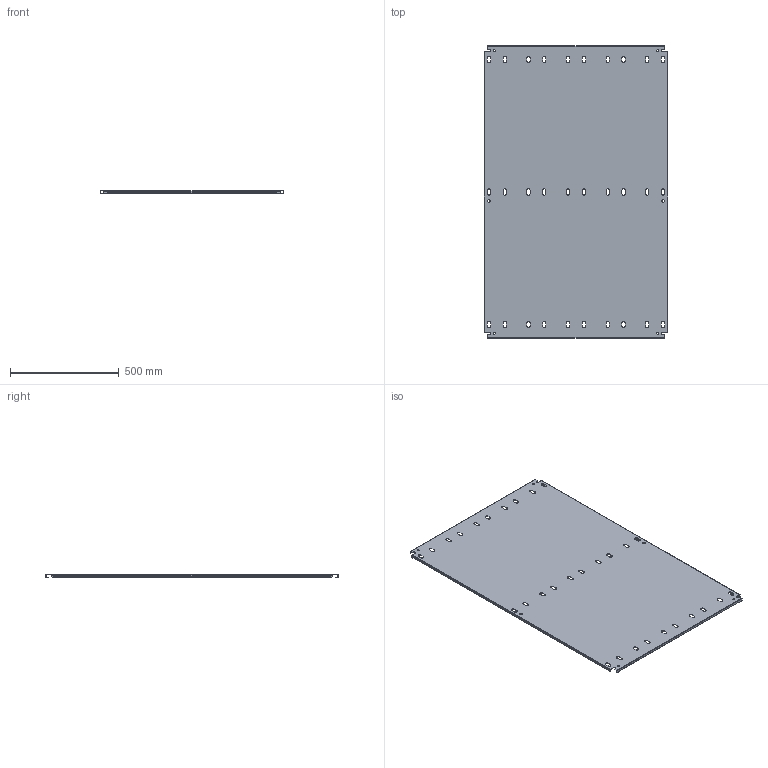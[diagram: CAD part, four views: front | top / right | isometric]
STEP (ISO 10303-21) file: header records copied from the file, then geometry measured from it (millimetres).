
FILE_DESCRIPTION(/* description */ ('1412BTSSCU 33.293" x 53" Right Inner Panel'),/* implementation_level */ '2;1');
FILE_NAME(/* name */ 'C:\Vault_Workspace\Inventor_Dwg\BoxCad\Result\1412BTSSCU121605\e-mail\3D\1412BTSSCU121605IP2.stp',/* time_stamp */ '2022-09-20T16:06:23-04:00',/* author */ ('BoxCad'),/* organization */ (''),/* preprocessor_version */ 'ST-DEVELOPER v18.1',/* originating_system */ 'Autodesk Inventor 2020',/* authorisation */ '');
FILE_SCHEMA (('AUTOMOTIVE_DESIGN { 1 0 10303 214 3 1 1 }'));
Length unit declared in the file: inch
Products named in the file (2): 1412BTSSCU121605IP2; 1412BTSSCU121605IP2-P
Assembly tree (1 placements, depth 2):
  1412BTSSCU121605IP2
    1412BTSSCU121605IP2-P
Bounding box: 845.64 x 1346.2 x 13 mm (x, y, z)
Volume: 2075720.5 mm3; surface area: 2415795.1 mm2
Topology: 1 solids, 1 shells, 240 faces, 714 edges, 476 vertices
Faces by surface type: plane 130, cylinder 110
Full cylindrical faces by diameter (mm): 7.366 x4, 12.7 x2
Entity records: 8311 total; most frequent: CARTESIAN_POINT 1433, ORIENTED_EDGE 1428, DIRECTION 1420, EDGE_CURVE 714, LINE 494, VECTOR 494, VERTEX_POINT 476, AXIS2_PLACEMENT_3D 463
